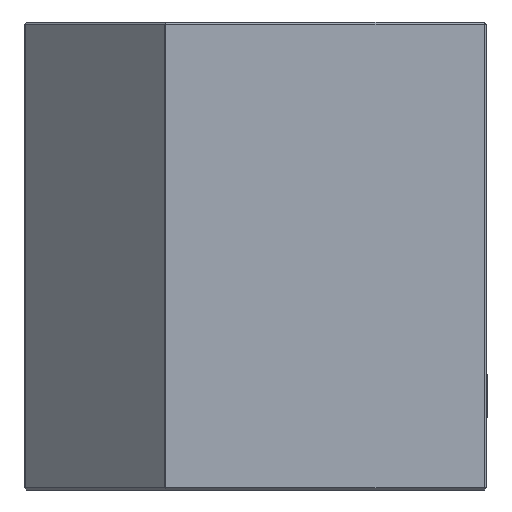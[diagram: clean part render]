
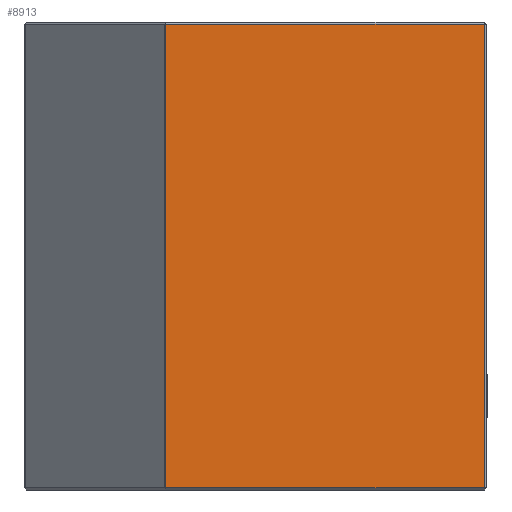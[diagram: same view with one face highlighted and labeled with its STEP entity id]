
A CAD part, left-side view. The second image highlights one B-rep face of the part: STEP entity #8913.
In plain terms, the highlighted planar face has unit normal (-1, 0, 0).
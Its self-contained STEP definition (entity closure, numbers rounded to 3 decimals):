
#189 = EDGE_CURVE ( 'NONE', #1662, #11426, #5993, .T. ) ;
#673 = AXIS2_PLACEMENT_3D ( 'NONE', #9802, #10717, #5248 ) ;
#1315 = ORIENTED_EDGE ( 'NONE', *, *, #189, .T. ) ;
#1616 = DIRECTION ( 'NONE',  ( 0., 0., -1. ) ) ;
#1651 = VECTOR ( 'NONE', #1616, 1000. ) ;
#1662 = VERTEX_POINT ( 'NONE', #9772 ) ;
#2012 = ORIENTED_EDGE ( 'NONE', *, *, #9031, .T. ) ;
#2977 = CARTESIAN_POINT ( 'NONE',  ( -26., -13.55, 0.2 ) ) ;
#3286 = CARTESIAN_POINT ( 'NONE',  ( -26., -13.55, 40. ) ) ;
#3337 = LINE ( 'NONE', #11749, #10302 ) ;
#3387 = ORIENTED_EDGE ( 'NONE', *, *, #4899, .T. ) ;
#3441 = PLANE ( 'NONE',  #673 ) ;
#4154 = CARTESIAN_POINT ( 'NONE',  ( -26., -13.55, 39.8 ) ) ;
#4789 = VERTEX_POINT ( 'NONE', #4154 ) ;
#4899 = EDGE_CURVE ( 'NONE', #8346, #1662, #8920, .T. ) ;
#5248 = DIRECTION ( 'NONE',  ( 0., 0., -1. ) ) ;
#5993 = LINE ( 'NONE', #11089, #10833 ) ;
#6076 = EDGE_LOOP ( 'NONE', ( #2012, #3387, #1315, #8204 ) ) ;
#6192 = CARTESIAN_POINT ( 'NONE',  ( -26., 13.667, 40. ) ) ;
#6672 = DIRECTION ( 'NONE',  ( 0., -1., 0. ) ) ;
#6903 = DIRECTION ( 'NONE',  ( 0., 0., 1. ) ) ;
#7201 = DIRECTION ( 'NONE',  ( 0., 1., 0. ) ) ;
#8204 = ORIENTED_EDGE ( 'NONE', *, *, #8536, .T. ) ;
#8346 = VERTEX_POINT ( 'NONE', #11604 ) ;
#8536 = EDGE_CURVE ( 'NONE', #11426, #4789, #11606, .T. ) ;
#8913 = ADVANCED_FACE ( 'NONE', ( #11744 ), #3441, .F. ) ;
#8920 = LINE ( 'NONE', #6192, #1651 ) ;
#9031 = EDGE_CURVE ( 'NONE', #4789, #8346, #3337, .T. ) ;
#9177 = VECTOR ( 'NONE', #6903, 1000. ) ;
#9772 = CARTESIAN_POINT ( 'NONE',  ( -26., 13.667, 0.2 ) ) ;
#9802 = CARTESIAN_POINT ( 'NONE',  ( -26., -13.75, 40. ) ) ;
#10302 = VECTOR ( 'NONE', #7201, 1000. ) ;
#10717 = DIRECTION ( 'NONE',  ( 1., 0., 0. ) ) ;
#10833 = VECTOR ( 'NONE', #6672, 1000. ) ;
#11089 = CARTESIAN_POINT ( 'NONE',  ( -26., -13.75, 0.2 ) ) ;
#11426 = VERTEX_POINT ( 'NONE', #2977 ) ;
#11604 = CARTESIAN_POINT ( 'NONE',  ( -26., 13.667, 39.8 ) ) ;
#11606 = LINE ( 'NONE', #3286, #9177 ) ;
#11744 = FACE_OUTER_BOUND ( 'NONE', #6076, .T. ) ;
#11749 = CARTESIAN_POINT ( 'NONE',  ( -26., 13.75, 39.8 ) ) ;
